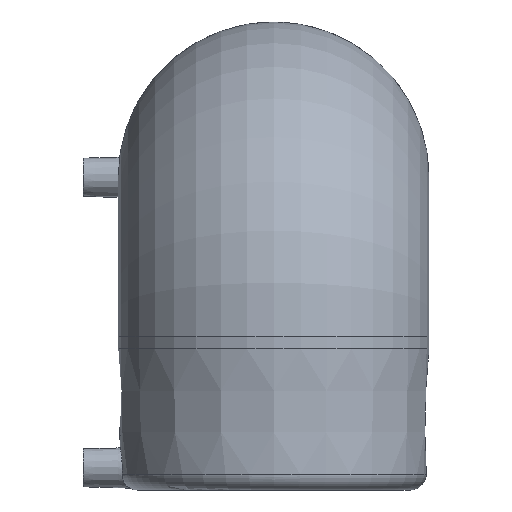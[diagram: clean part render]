
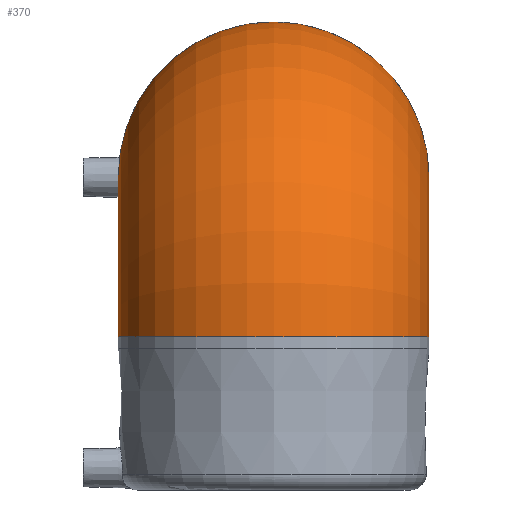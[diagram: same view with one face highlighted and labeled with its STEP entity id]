
A CAD part, left-side view. The second image highlights one B-rep face of the part: STEP entity #370.
In plain terms, the highlighted toroidal (fillet/blend) face has major radius 79 mm and minor radius 77 mm.
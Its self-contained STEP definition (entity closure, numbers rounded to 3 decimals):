
#47=TOROIDAL_SURFACE('',#428,79.,77.);
#56=CIRCLE('',#418,77.);
#58=CIRCLE('',#422,77.);
#105=ORIENTED_EDGE('',*,*,#166,.F.);
#106=ORIENTED_EDGE('',*,*,#168,.T.);
#166=EDGE_CURVE('',#203,#203,#56,.F.);
#168=EDGE_CURVE('',#205,#205,#58,.F.);
#203=VERTEX_POINT('',#680);
#205=VERTEX_POINT('',#686);
#258=EDGE_LOOP('',(#105));
#259=EDGE_LOOP('',(#106));
#317=FACE_BOUND('',#258,.T.);
#318=FACE_BOUND('',#259,.T.);
#370=ADVANCED_FACE('',(#317,#318),#47,.T.);
#418=AXIS2_PLACEMENT_3D('',#679,#492,#493);
#422=AXIS2_PLACEMENT_3D('',#685,#500,#501);
#428=AXIS2_PLACEMENT_3D('',#720,#512,#513);
#492=DIRECTION('',(-1.,0.,0.));
#493=DIRECTION('',(0.,0.,-1.));
#500=DIRECTION('',(0.,0.,-1.));
#501=DIRECTION('',(1.,0.,0.));
#512=DIRECTION('',(0.,1.,0.));
#513=DIRECTION('',(0.,0.,1.));
#679=CARTESIAN_POINT('',(79.,0.,155.));
#680=CARTESIAN_POINT('',(79.,0.,78.));
#685=CARTESIAN_POINT('',(0.,0.,76.));
#686=CARTESIAN_POINT('',(77.,0.,76.));
#720=CARTESIAN_POINT('',(79.,0.,76.));
